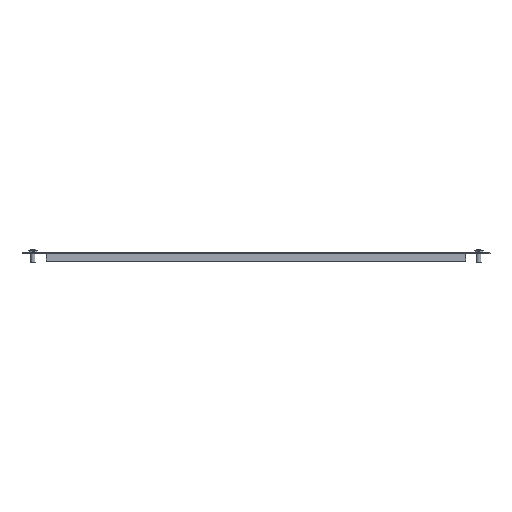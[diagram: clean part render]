
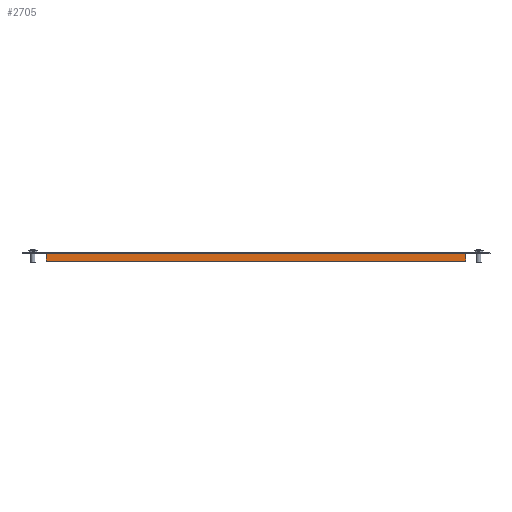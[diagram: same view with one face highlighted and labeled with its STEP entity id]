
A CAD part, front view. The second image highlights one B-rep face of the part: STEP entity #2705.
In plain terms, the highlighted planar face has unit normal (0, -1, 0).
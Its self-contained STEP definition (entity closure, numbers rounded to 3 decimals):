
#246 = DIRECTION ( 'NONE',  ( 0., 0., -1. ) ) ;
#348 = CARTESIAN_POINT ( 'NONE',  ( 0., -935., 0. ) ) ;
#360 = CARTESIAN_POINT ( 'NONE',  ( -235.5, -935., -1.8 ) ) ;
#463 = ORIENTED_EDGE ( 'NONE', *, *, #2047, .F. ) ;
#559 = ORIENTED_EDGE ( 'NONE', *, *, #561, .F. ) ;
#561 = EDGE_CURVE ( 'NONE', #5789, #1196, #580, .T. ) ;
#580 = LINE ( 'NONE', #6861, #4141 ) ;
#635 = ORIENTED_EDGE ( 'NONE', *, *, #2133, .F. ) ;
#867 = VERTEX_POINT ( 'NONE', #3160 ) ;
#947 = DIRECTION ( 'NONE',  ( -1., 0., 0. ) ) ;
#1196 = VERTEX_POINT ( 'NONE', #3496 ) ;
#1500 = VERTEX_POINT ( 'NONE', #2513 ) ;
#1581 = AXIS2_PLACEMENT_3D ( 'NONE', #348, #2597, #4863 ) ;
#1876 = LINE ( 'NONE', #5919, #3011 ) ;
#2047 = EDGE_CURVE ( 'NONE', #2944, #2670, #3047, .T. ) ;
#2133 = EDGE_CURVE ( 'NONE', #867, #5789, #7190, .T. ) ;
#2434 = CARTESIAN_POINT ( 'NONE',  ( -235.5, -935., -2.4 ) ) ;
#2513 = CARTESIAN_POINT ( 'NONE',  ( 235.5, -935., 0. ) ) ;
#2597 = DIRECTION ( 'NONE',  ( 0., -1., 0. ) ) ;
#2670 = VERTEX_POINT ( 'NONE', #4451 ) ;
#2705 = ADVANCED_FACE ( 'NONE', ( #6648 ), #5428, .T. ) ;
#2944 = VERTEX_POINT ( 'NONE', #6984 ) ;
#3011 = VECTOR ( 'NONE', #3607, 1000. ) ;
#3047 = LINE ( 'NONE', #5322, #4158 ) ;
#3073 = LINE ( 'NONE', #3825, #6846 ) ;
#3160 = CARTESIAN_POINT ( 'NONE',  ( -235.5, -935., -10. ) ) ;
#3496 = CARTESIAN_POINT ( 'NONE',  ( -235.5, -935., 0. ) ) ;
#3607 = DIRECTION ( 'NONE',  ( 0., 0., 1. ) ) ;
#3618 = EDGE_CURVE ( 'NONE', #1500, #1196, #5635, .T. ) ;
#3825 = CARTESIAN_POINT ( 'NONE',  ( -235.5, -935., -10. ) ) ;
#4056 = EDGE_CURVE ( 'NONE', #2670, #867, #3073, .T. ) ;
#4074 = VECTOR ( 'NONE', #947, 1000. ) ;
#4136 = ORIENTED_EDGE ( 'NONE', *, *, #4918, .T. ) ;
#4141 = VECTOR ( 'NONE', #5144, 1000. ) ;
#4158 = VECTOR ( 'NONE', #246, 1000. ) ;
#4451 = CARTESIAN_POINT ( 'NONE',  ( 235.5, -935., -10. ) ) ;
#4861 = ORIENTED_EDGE ( 'NONE', *, *, #4056, .F. ) ;
#4863 = DIRECTION ( 'NONE',  ( 1., 0., 0. ) ) ;
#4882 = VECTOR ( 'NONE', #4913, 1000. ) ;
#4913 = DIRECTION ( 'NONE',  ( 0., 0., 1. ) ) ;
#4918 = EDGE_CURVE ( 'NONE', #2944, #1500, #1876, .T. ) ;
#5144 = DIRECTION ( 'NONE',  ( 0., 0., 1. ) ) ;
#5322 = CARTESIAN_POINT ( 'NONE',  ( 235.5, -935., -10. ) ) ;
#5428 = PLANE ( 'NONE',  #1581 ) ;
#5548 = DIRECTION ( 'NONE',  ( -1., 0., 0. ) ) ;
#5635 = LINE ( 'NONE', #6199, #4074 ) ;
#5789 = VERTEX_POINT ( 'NONE', #2434 ) ;
#5919 = CARTESIAN_POINT ( 'NONE',  ( 235.5, -935., -2.4 ) ) ;
#6128 = EDGE_LOOP ( 'NONE', ( #463, #4136, #6702, #559, #635, #4861 ) ) ;
#6199 = CARTESIAN_POINT ( 'NONE',  ( 0., -935., 0. ) ) ;
#6648 = FACE_OUTER_BOUND ( 'NONE', #6128, .T. ) ;
#6702 = ORIENTED_EDGE ( 'NONE', *, *, #3618, .T. ) ;
#6846 = VECTOR ( 'NONE', #5548, 1000. ) ;
#6861 = CARTESIAN_POINT ( 'NONE',  ( -235.5, -935., 0. ) ) ;
#6984 = CARTESIAN_POINT ( 'NONE',  ( 235.5, -935., -2.4 ) ) ;
#7190 = LINE ( 'NONE', #360, #4882 ) ;
